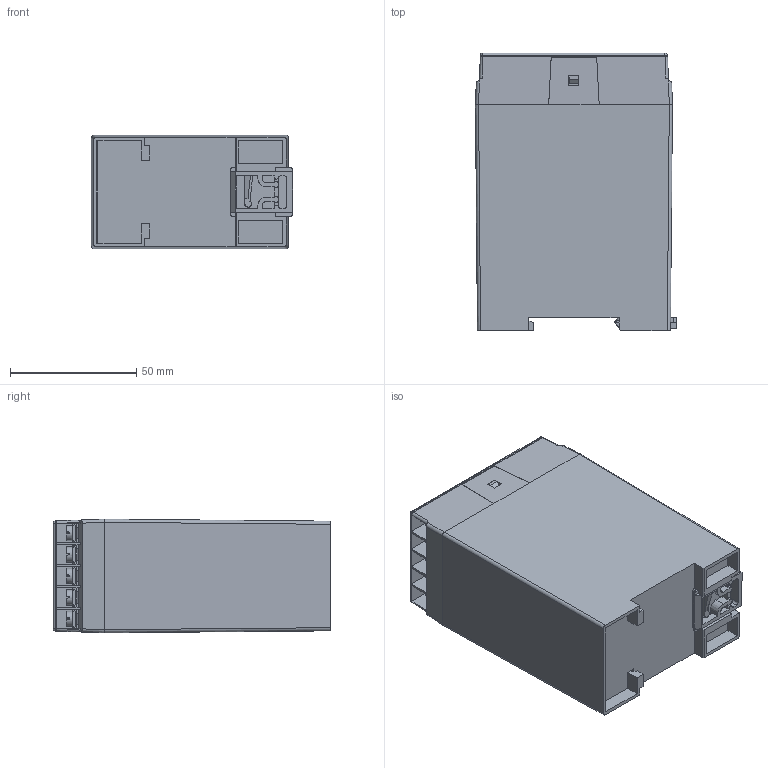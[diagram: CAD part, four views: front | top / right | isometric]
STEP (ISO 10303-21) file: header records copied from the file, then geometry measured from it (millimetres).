
FILE_DESCRIPTION (( 'STEP AP203' ), '1' );
FILE_NAME ('PR115.STEP', '2021-10-08T10:35:28', ( '' ), ( '' ), 'SwSTEP 2.0', 'SolidWorks 2021', '' );
FILE_SCHEMA (( 'CONFIG_CONTROL_DESIGN' ));
Length unit declared in the file: millimetre
Products named in the file (11): PR115
Assembly tree (37 placements, depth 2):
  PR115
    PR115
    PR115
    PR115
    PR115
    PR115
    PR115
    PR115
    PR115  x10
    PR115  x10
    PR115  x10
Bounding box: 79.64 x 110 x 45 mm (x, y, z)
Volume: 83488.2 mm3; surface area: 119802.2 mm2
Topology: 37 solids, 37 shells, 2483 faces, 6879 edges, 4501 vertices
Faces by surface type: plane 1941, cylinder 336, cone 108, torus 60, bspline 34, sphere 4
Entity records: 35052 total; most frequent: CARTESIAN_POINT 7022, ORIENTED_EDGE 5722, DIRECTION 4859, EDGE_CURVE 2861, VECTOR 2453, LINE 2453, VERTEX_POINT 1891, AXIS2_PLACEMENT_3D 1203
